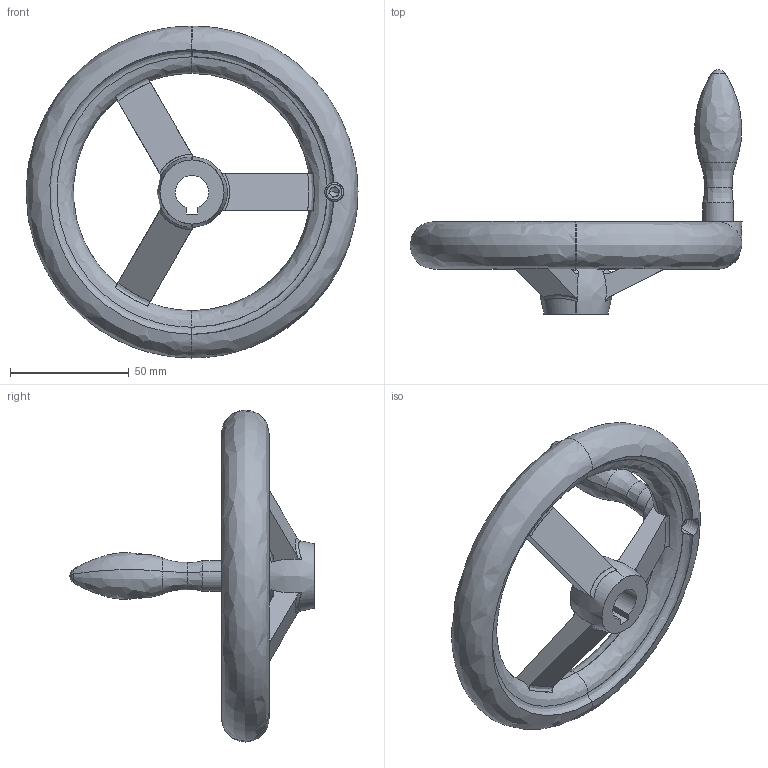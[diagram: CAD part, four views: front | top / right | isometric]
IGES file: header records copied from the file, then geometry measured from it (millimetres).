
Start section: SolidWorks IGES file using analytic representation for surfaces
Global section: file name: C:\Users\IanO\Desktop\Temp File\Process pending\77120_v2\77120_v2_20171108_IGES\77120.W0515.igs; native system: SolidWorks 2017; preprocessor: SolidWorks 2017; author: IanO; date: 171108.083853; units: millimetre
Bounding box: 140 x 103 x 140 mm (x, y, z)
Surface area: 36520.3 mm2 (no closed solid volume)
Topology: 0 solids, 0 shells, 129 faces, 1538 edges, 1531 vertices
Faces by surface type: bspline 76, revolution 53
